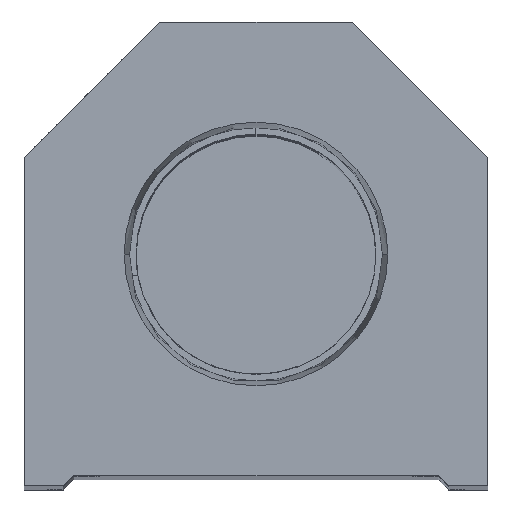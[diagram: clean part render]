
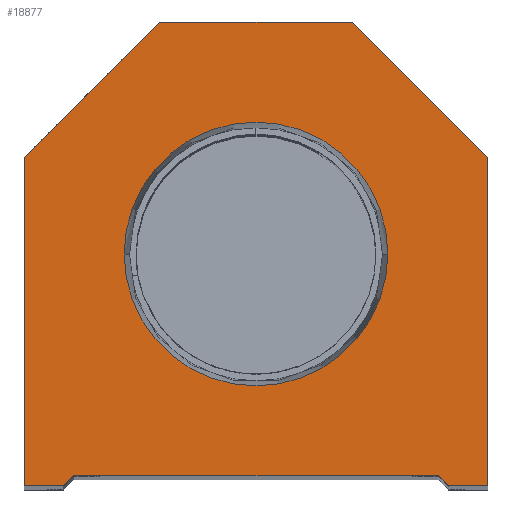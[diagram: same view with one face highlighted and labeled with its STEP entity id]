
A CAD part, top view. The second image highlights one B-rep face of the part: STEP entity #18877.
In plain terms, the highlighted planar face has unit normal (0, 0, 1).
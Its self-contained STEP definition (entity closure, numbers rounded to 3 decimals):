
#274 = AXIS2_PLACEMENT_3D ( 'NONE', #18958, #24784, #1536 ) ;
#550 = EDGE_LOOP ( 'NONE', ( #13969, #16306, #16533, #18597, #7623, #770, #1808, #12368, #23003, #7317 ) ) ;
#592 = EDGE_CURVE ( 'NONE', #3387, #9126, #18220, .T. ) ;
#638 = VERTEX_POINT ( 'NONE', #6394 ) ;
#770 = ORIENTED_EDGE ( 'NONE', *, *, #22096, .T. ) ;
#1320 = DIRECTION ( 'NONE',  ( -0.707, -0.707, 0. ) ) ;
#1509 = DIRECTION ( 'NONE',  ( 1., 0., 0. ) ) ;
#1536 = DIRECTION ( 'NONE',  ( 1., 0., 0. ) ) ;
#1808 = ORIENTED_EDGE ( 'NONE', *, *, #24930, .T. ) ;
#2618 = CARTESIAN_POINT ( 'NONE',  ( 0., 22.25, 0. ) ) ;
#2635 = CARTESIAN_POINT ( 'NONE',  ( -9.25, 9.25, 0. ) ) ;
#2649 = LINE ( 'NONE', #4683, #16054 ) ;
#2736 = VERTEX_POINT ( 'NONE', #22409 ) ;
#3023 = VECTOR ( 'NONE', #24047, 1000. ) ;
#3252 = EDGE_CURVE ( 'NONE', #13138, #24044, #12566, .T. ) ;
#3387 = VERTEX_POINT ( 'NONE', #19474 ) ;
#3466 = CARTESIAN_POINT ( 'NONE',  ( 22.25, 31.5, 0. ) ) ;
#3532 = CARTESIAN_POINT ( 'NONE',  ( 0., 0., 0. ) ) ;
#3534 = EDGE_CURVE ( 'NONE', #12132, #3387, #11624, .T. ) ;
#3542 = AXIS2_PLACEMENT_3D ( 'NONE', #3532, #8925, #1509 ) ;
#3584 = ORIENTED_EDGE ( 'NONE', *, *, #18578, .F. ) ;
#4213 = VERTEX_POINT ( 'NONE', #21991 ) ;
#4683 = CARTESIAN_POINT ( 'NONE',  ( -17.5, 1., 0. ) ) ;
#4785 = EDGE_CURVE ( 'NONE', #638, #23322, #20041, .T. ) ;
#5237 = CARTESIAN_POINT ( 'NONE',  ( -12.647, 22.25, 0. ) ) ;
#5412 = CARTESIAN_POINT ( 'NONE',  ( 22.25, 31.5, 0. ) ) ;
#5454 = CARTESIAN_POINT ( 'NONE',  ( -9.25, 44.5, 0. ) ) ;
#6067 = CARTESIAN_POINT ( 'NONE',  ( 22.25, 0., 0. ) ) ;
#6394 = CARTESIAN_POINT ( 'NONE',  ( -18.5, 0., 0. ) ) ;
#7070 = AXIS2_PLACEMENT_3D ( 'NONE', #2618, #8258, #10166 ) ;
#7169 = VECTOR ( 'NONE', #13737, 1000. ) ;
#7317 = ORIENTED_EDGE ( 'NONE', *, *, #9352, .T. ) ;
#7465 = LINE ( 'NONE', #3466, #17320 ) ;
#7487 = CARTESIAN_POINT ( 'NONE',  ( -22.25, 31.5, 0. ) ) ;
#7532 = PLANE ( 'NONE',  #3542 ) ;
#7536 = EDGE_CURVE ( 'NONE', #24044, #17257, #10924, .T. ) ;
#7623 = ORIENTED_EDGE ( 'NONE', *, *, #592, .T. ) ;
#8105 = CARTESIAN_POINT ( 'NONE',  ( -17.5, 1., 0. ) ) ;
#8258 = DIRECTION ( 'NONE',  ( 0., 0., 1. ) ) ;
#8925 = DIRECTION ( 'NONE',  ( 0., 0., 1. ) ) ;
#9126 = VERTEX_POINT ( 'NONE', #6067 ) ;
#9352 = EDGE_CURVE ( 'NONE', #17257, #2736, #10775, .T. ) ;
#9447 = CARTESIAN_POINT ( 'NONE',  ( -17.5, 0., 0. ) ) ;
#10166 = DIRECTION ( 'NONE',  ( 1., 0., 0. ) ) ;
#10775 = LINE ( 'NONE', #11028, #24428 ) ;
#10924 = LINE ( 'NONE', #7487, #24753 ) ;
#11028 = CARTESIAN_POINT ( 'NONE',  ( -22.25, 0., 0. ) ) ;
#11624 = LINE ( 'NONE', #17294, #23784 ) ;
#11872 = LINE ( 'NONE', #9447, #22960 ) ;
#12132 = VERTEX_POINT ( 'NONE', #24419 ) ;
#12368 = ORIENTED_EDGE ( 'NONE', *, *, #3252, .T. ) ;
#12566 = LINE ( 'NONE', #16582, #17697 ) ;
#13138 = VERTEX_POINT ( 'NONE', #19871 ) ;
#13334 = CIRCLE ( 'NONE', #274, 12.647 ) ;
#13737 = DIRECTION ( 'NONE',  ( 0., 1., 0. ) ) ;
#13864 = LINE ( 'NONE', #19396, #7169 ) ;
#13969 = ORIENTED_EDGE ( 'NONE', *, *, #23794, .T. ) ;
#14180 = VECTOR ( 'NONE', #15883, 1000. ) ;
#14783 = FACE_OUTER_BOUND ( 'NONE', #550, .T. ) ;
#15640 = VERTEX_POINT ( 'NONE', #5412 ) ;
#15883 = DIRECTION ( 'NONE',  ( 0.707, 0.707, 0. ) ) ;
#16054 = VECTOR ( 'NONE', #20190, 1000. ) ;
#16306 = ORIENTED_EDGE ( 'NONE', *, *, #4785, .T. ) ;
#16533 = ORIENTED_EDGE ( 'NONE', *, *, #17066, .T. ) ;
#16582 = CARTESIAN_POINT ( 'NONE',  ( 9.25, 44.5, 0. ) ) ;
#16644 = FACE_BOUND ( 'NONE', #17100, .T. ) ;
#17035 = DIRECTION ( 'NONE',  ( 1., 0., 0. ) ) ;
#17066 = EDGE_CURVE ( 'NONE', #23322, #12132, #2649, .T. ) ;
#17076 = DIRECTION ( 'NONE',  ( -0.707, 0.707, 0. ) ) ;
#17083 = DIRECTION ( 'NONE',  ( 0., -1., 0. ) ) ;
#17100 = EDGE_LOOP ( 'NONE', ( #24744, #3584 ) ) ;
#17170 = DIRECTION ( 'NONE',  ( 0.707, -0.707, 0. ) ) ;
#17257 = VERTEX_POINT ( 'NONE', #21543 ) ;
#17294 = CARTESIAN_POINT ( 'NONE',  ( 9.25, 9.25, 0. ) ) ;
#17320 = VECTOR ( 'NONE', #17076, 1000. ) ;
#17697 = VECTOR ( 'NONE', #24187, 1000. ) ;
#18220 = LINE ( 'NONE', #20246, #3023 ) ;
#18578 = EDGE_CURVE ( 'NONE', #19317, #4213, #13334, .T. ) ;
#18597 = ORIENTED_EDGE ( 'NONE', *, *, #3534, .T. ) ;
#18877 = ADVANCED_FACE ( 'NONE', ( #16644, #14783 ), #7532, .T. ) ;
#18958 = CARTESIAN_POINT ( 'NONE',  ( 0., 22.25, 0. ) ) ;
#19317 = VERTEX_POINT ( 'NONE', #5237 ) ;
#19396 = CARTESIAN_POINT ( 'NONE',  ( 22.25, 0., 0. ) ) ;
#19474 = CARTESIAN_POINT ( 'NONE',  ( 18.5, 0., 0. ) ) ;
#19871 = CARTESIAN_POINT ( 'NONE',  ( 9.25, 44.5, 0. ) ) ;
#20041 = LINE ( 'NONE', #2635, #14180 ) ;
#20190 = DIRECTION ( 'NONE',  ( 1., 0., 0. ) ) ;
#20246 = CARTESIAN_POINT ( 'NONE',  ( 17.5, 0., 0. ) ) ;
#20480 = EDGE_CURVE ( 'NONE', #4213, #19317, #21212, .T. ) ;
#21212 = CIRCLE ( 'NONE', #7070, 12.647 ) ;
#21543 = CARTESIAN_POINT ( 'NONE',  ( -22.25, 31.5, 0. ) ) ;
#21991 = CARTESIAN_POINT ( 'NONE',  ( 12.647, 22.25, 0. ) ) ;
#22096 = EDGE_CURVE ( 'NONE', #9126, #15640, #13864, .T. ) ;
#22409 = CARTESIAN_POINT ( 'NONE',  ( -22.25, 0., 0. ) ) ;
#22960 = VECTOR ( 'NONE', #17035, 1000. ) ;
#23003 = ORIENTED_EDGE ( 'NONE', *, *, #7536, .T. ) ;
#23322 = VERTEX_POINT ( 'NONE', #8105 ) ;
#23784 = VECTOR ( 'NONE', #17170, 1000. ) ;
#23794 = EDGE_CURVE ( 'NONE', #2736, #638, #11872, .T. ) ;
#24044 = VERTEX_POINT ( 'NONE', #5454 ) ;
#24047 = DIRECTION ( 'NONE',  ( 1., 0., 0. ) ) ;
#24187 = DIRECTION ( 'NONE',  ( -1., 0., 0. ) ) ;
#24419 = CARTESIAN_POINT ( 'NONE',  ( 17.5, 1., 0. ) ) ;
#24428 = VECTOR ( 'NONE', #17083, 1000. ) ;
#24744 = ORIENTED_EDGE ( 'NONE', *, *, #20480, .F. ) ;
#24753 = VECTOR ( 'NONE', #1320, 1000. ) ;
#24784 = DIRECTION ( 'NONE',  ( 0., 0., 1. ) ) ;
#24930 = EDGE_CURVE ( 'NONE', #15640, #13138, #7465, .T. ) ;
